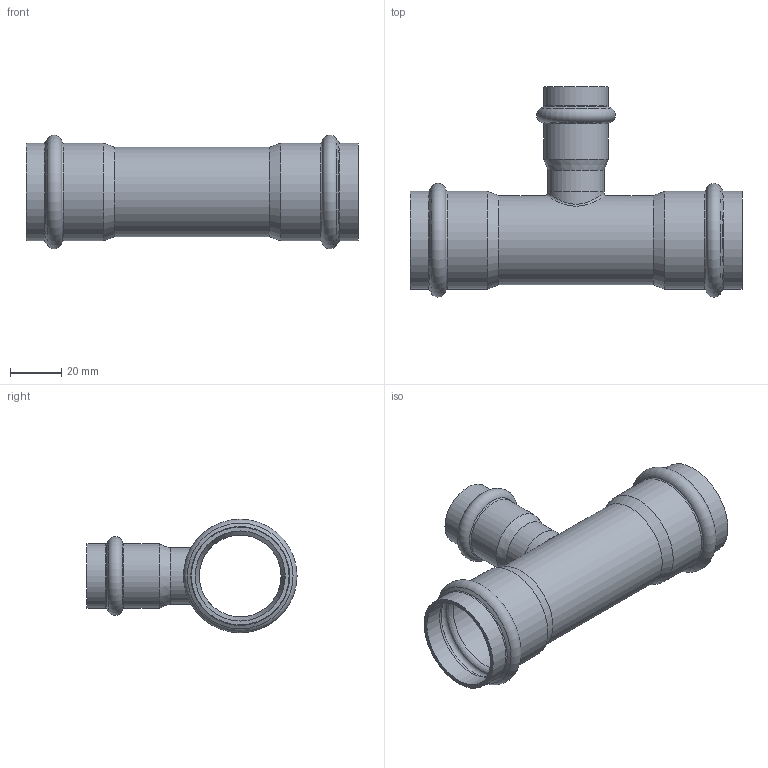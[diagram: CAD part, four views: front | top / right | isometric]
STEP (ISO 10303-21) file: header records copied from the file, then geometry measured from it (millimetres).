
FILE_DESCRIPTION((''),'2;1');
FILE_NAME('G:\Technics\CAD\Bauteile\035\69130352235(1).stp','2008-02-29T11:58:39',('herberg'),(''),'Autodesk Inventor 2008','Autodesk Inventor 2008','');
FILE_SCHEMA(('AUTOMOTIVE_DESIGN { 1 0 10303 214 1 1 1 1 }'));
Length unit declared in the file: millimetre
Products named in the file (3): 69130352235(1); LM_69130352235(1); 6924322HM(1)
Assembly tree (2 placements, depth 2):
  69130352235(1)
    LM_69130352235(1)
    6924322HM(1)
Bounding box: 130 x 82.25 x 44.49 mm (x, y, z)
Volume: 27688.1 mm3; surface area: 37561.3 mm2
Topology: 2 solids, 2 shells, 55 faces, 115 edges, 64 vertices
Faces by surface type: cylinder 18, bspline 13, cone 12, torus 7, plane 5
Full cylindrical faces by diameter (mm): 19 x2, 22 x2, 22.15 x2, 25.15 x2, 32 x1, 35 x1, 35.25 x4, 38.25 x4
Entity records: 2776 total; most frequent: CARTESIAN_POINT 1795, DIRECTION 200, ORIENTED_EDGE 116, EDGE_LOOP 110, AXIS2_PLACEMENT_3D 100, EDGE_CURVE 58, VERTEX_POINT 56, FACE_OUTER_BOUND 55
